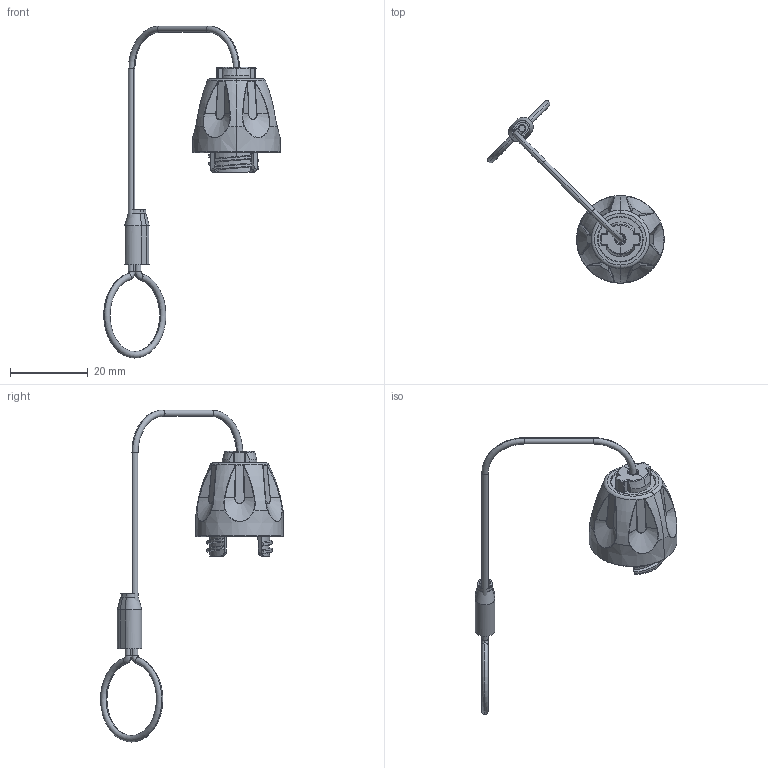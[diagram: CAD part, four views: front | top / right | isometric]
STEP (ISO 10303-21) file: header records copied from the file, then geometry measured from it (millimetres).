
FILE_DESCRIPTION (( 'STEP AP214' ), '1' );
FILE_NAME ('QMICRO90-DCHPP.STEP', '2025-05-02T23:39:37', ( '' ), ( '' ), 'SwSTEP 2.0', 'SolidWorks 2024', '' );
FILE_SCHEMA (( 'AUTOMOTIVE_DESIGN' ));
Length unit declared in the file: inch
Products named in the file (1): QMICRO90-DCHPP
Bounding box: 45.43 x 47.05 x 85.41 mm (x, y, z)
Volume: 6210.4 mm3; surface area: 4856.3 mm2
Topology: 3 solids, 3 shells, 352 faces, 856 edges, 516 vertices
Faces by surface type: bspline 134, cylinder 77, plane 56, torus 40, cone 29, sphere 16
Entity records: 15172 total; most frequent: CARTESIAN_POINT 8079, ORIENTED_EDGE 1712, DIRECTION 1185, EDGE_CURVE 856, VERTEX_POINT 516, AXIS2_PLACEMENT_3D 508, EDGE_LOOP 362, ADVANCED_FACE 352
